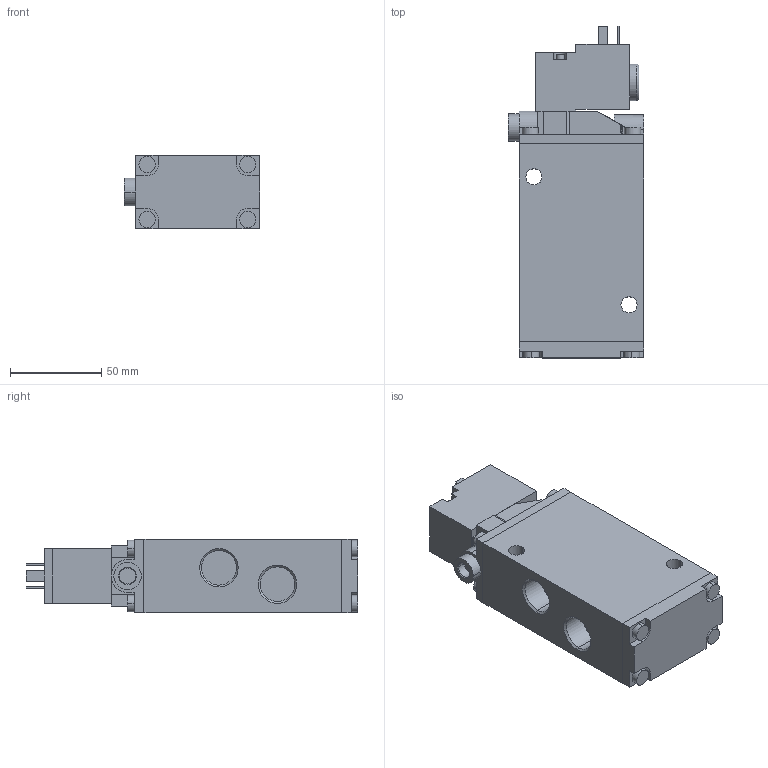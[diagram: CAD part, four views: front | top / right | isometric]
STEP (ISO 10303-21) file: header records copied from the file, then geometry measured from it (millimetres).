
FILE_DESCRIPTION((''),'2;1');
FILE_NAME('5724565280','2015-03-23T',('mla1hc'),(''),'PRO/ENGINEER BY PARAMETRIC TECHNOLOGY CORPORATION, 2011490','PRO/ENGINEER BY PARAMETRIC TECHNOLOGY CORPORATION, 2011490','');
FILE_SCHEMA(('AUTOMOTIVE_DESIGN_CC2 { 1 2 10303 214 -1 1 5 2 }'));
Length unit declared in the file: millimetre
Products named in the file (1): 5724565280
Bounding box: 74 x 181.5 x 40 mm (x, y, z)
Volume: 386056.2 mm3; surface area: 50840 mm2
Topology: 1 solids, 2 shells, 205 faces, 499 edges, 325 vertices
Faces by surface type: plane 128, cylinder 61, cone 14, torus 2
Entity records: 6010 total; most frequent: CARTESIAN_POINT 1055, DIRECTION 1037, ORIENTED_EDGE 998, EDGE_CURVE 499, VECTOR 355, LINE 355, AXIS2_PLACEMENT_3D 341, VERTEX_POINT 325
